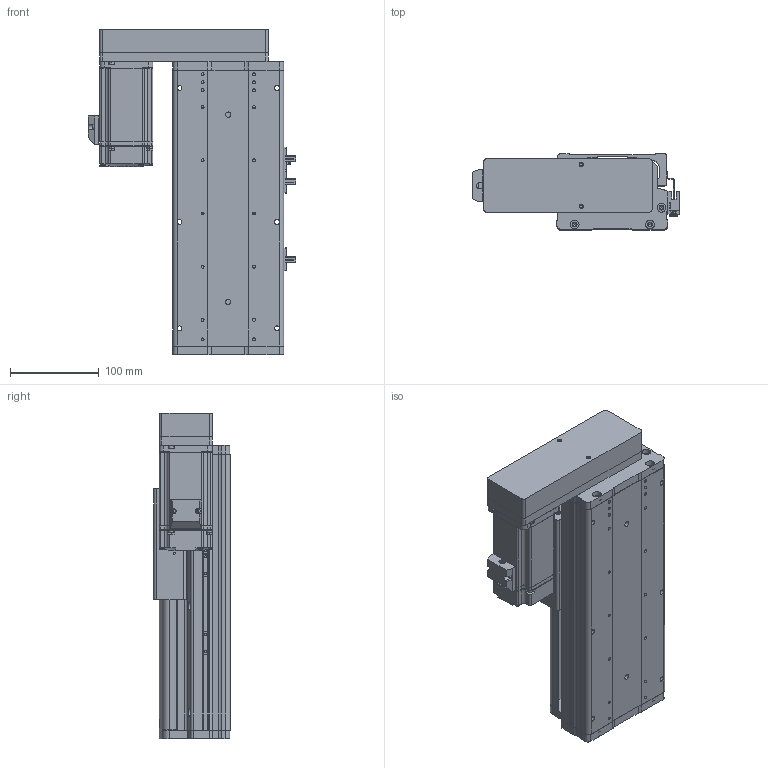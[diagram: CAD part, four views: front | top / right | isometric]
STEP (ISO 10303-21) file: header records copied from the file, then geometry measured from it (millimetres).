
FILE_DESCRIPTION (( 'STEP AP214' ), '1' );
FILE_NAME ('KSD125S-S100-ML-CM.STEP', '2017-10-21T08:23:08', ( '微软用户' ), ( '微软中国' ), 'SwSTEP 2.0', 'SolidWorks 2014', '' );
FILE_SCHEMA (( 'AUTOMOTIVE_DESIGN' ));
Length unit declared in the file: millimetre
Products named in the file (17): 拸萇儂釱滅袉菜-1; U倰嫖萇假蚾璃; ヶ傷啣-125遵耀郪; KSD125-賑雄釱1; 125-帣傷啣1; KSD125S-S100-ML-CM; 覜茼え68遵圉猾敕; U倰嫖萇EEㄜSX672; HTPA30S3M150_A_H6_a佪裝蚚; HTPA30S3M150_A_H6_a萇儂蚚; 125宽马达安装板连板左右折丝杆; 125悵誘欶酘衵殏; MHMD042G1CA_2_03; KSD125S-100俴最佪裝滅鳥裔; KSD125S-100俴最佪裝菁啣; KSD125S-100俴最EGH15CA絳寢; 拸萇儂釱滅袉菜
Assembly tree (21 placements, depth 2):
  KSD125S-S100-ML-CM
    125-帣傷啣1
    KSD125-賑雄釱1
    ヶ傷啣-125遵耀郪
    U倰嫖萇假蚾璃  x3
    拸萇儂釱滅袉菜-1
    拸萇儂釱滅袉菜
    KSD125S-100俴最EGH15CA絳寢  x2
    KSD125S-100俴最佪裝菁啣
    KSD125S-100俴最佪裝滅鳥裔
    MHMD042G1CA_2_03
    125悵誘欶酘衵殏
    125宽马达安装板连板左右折丝杆
    HTPA30S3M150_A_H6_a萇儂蚚
    HTPA30S3M150_A_H6_a佪裝蚚
    U倰嫖萇EEㄜSX672  x3
    覜茼え68遵圉猾敕
Bounding box: 234.2 x 86 x 367.5 mm (x, y, z)
Volume: 1779032.9 mm3; surface area: 644279.7 mm2
Topology: 24 solids, 27 shells, 2541 faces, 7321 edges, 4809 vertices
Faces by surface type: cylinder 1390, plane 974, cone 151, bspline 26
Entity records: 83613 total; most frequent: CARTESIAN_POINT 16681, DIRECTION 12707, ORIENTED_EDGE 11962, EDGE_CURVE 6059, AXIS2_PLACEMENT_3D 4795, VERTEX_POINT 4029, VECTOR 3117, LINE 3117
